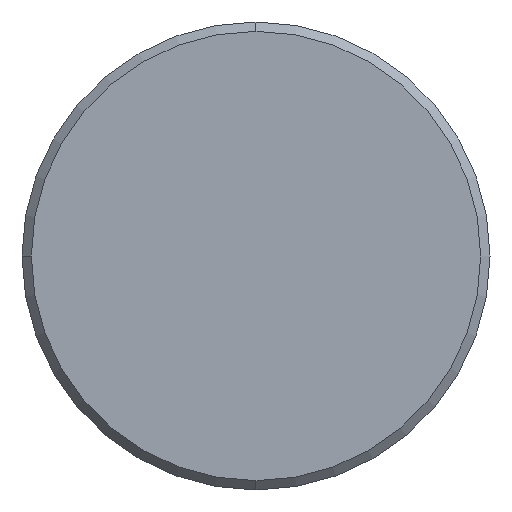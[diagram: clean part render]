
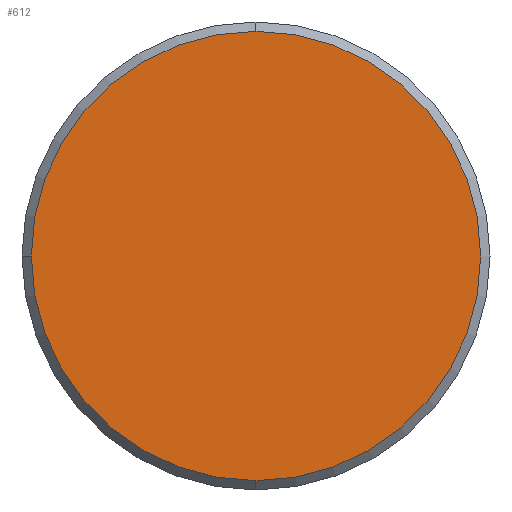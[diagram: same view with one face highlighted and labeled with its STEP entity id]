
A CAD part, left-side view. The second image highlights one B-rep face of the part: STEP entity #612.
In plain terms, the highlighted planar face has unit normal (-1, 0, 0).
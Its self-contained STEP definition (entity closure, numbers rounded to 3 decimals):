
#174 = VERTEX_POINT ( 'NONE', #1263 ) ;
#199 = VERTEX_POINT ( 'NONE', #1313 ) ;
#206 = VERTEX_POINT ( 'NONE', #1320 ) ;
#309 = ORIENTED_EDGE ( 'NONE', *, *, #712, .F. ) ;
#413 = EDGE_LOOP ( 'NONE', ( #309, #426, #443 ) ) ;
#426 = ORIENTED_EDGE ( 'NONE', *, *, #711, .F. ) ;
#443 = ORIENTED_EDGE ( 'NONE', *, *, #673, .F. ) ;
#510 = CIRCLE ( 'NONE', #548, 12. ) ;
#548 = AXIS2_PLACEMENT_3D ( 'NONE', #1256, #1257, #1259 ) ;
#612 = ADVANCED_FACE ( 'NONE', ( #1384 ), #1391, .F. ) ;
#673 = EDGE_CURVE ( 'NONE', #174, #206, #510, .T. ) ;
#711 = EDGE_CURVE ( 'NONE', #206, #199, #935, .T. ) ;
#712 = EDGE_CURVE ( 'NONE', #199, #174, #910, .T. ) ;
#745 = AXIS2_PLACEMENT_3D ( 'NONE', #1402, #1359, #1386 ) ;
#901 = AXIS2_PLACEMENT_3D ( 'NONE', #1026, #1027, #1028 ) ;
#910 = CIRCLE ( 'NONE', #901, 12. ) ;
#933 = AXIS2_PLACEMENT_3D ( 'NONE', #1023, #1024, #1025 ) ;
#935 = CIRCLE ( 'NONE', #933, 12. ) ;
#1023 = CARTESIAN_POINT ( 'NONE',  ( 0., 0., 0. ) ) ;
#1024 = DIRECTION ( 'NONE',  ( 1., 0., 0. ) ) ;
#1025 = DIRECTION ( 'NONE',  ( 0., 0., -1. ) ) ;
#1026 = CARTESIAN_POINT ( 'NONE',  ( 0., 0., 0. ) ) ;
#1027 = DIRECTION ( 'NONE',  ( 1., 0., 0. ) ) ;
#1028 = DIRECTION ( 'NONE',  ( 0., 1., 0. ) ) ;
#1256 = CARTESIAN_POINT ( 'NONE',  ( 0., 0., 0. ) ) ;
#1257 = DIRECTION ( 'NONE',  ( 1., 0., 0. ) ) ;
#1259 = DIRECTION ( 'NONE',  ( 0., 1., 0. ) ) ;
#1263 = CARTESIAN_POINT ( 'NONE',  ( 0., 12., 0. ) ) ;
#1313 = CARTESIAN_POINT ( 'NONE',  ( 0., 0., -12. ) ) ;
#1320 = CARTESIAN_POINT ( 'NONE',  ( 0., 0., 12. ) ) ;
#1359 = DIRECTION ( 'NONE',  ( 1., 0., 0. ) ) ;
#1384 = FACE_OUTER_BOUND ( 'NONE', #413, .T. ) ;
#1386 = DIRECTION ( 'NONE',  ( 0., 0., -1. ) ) ;
#1391 = PLANE ( 'NONE',  #745 ) ;
#1402 = CARTESIAN_POINT ( 'NONE',  ( 0., -12.65, 12.65 ) ) ;
